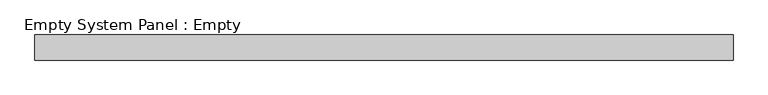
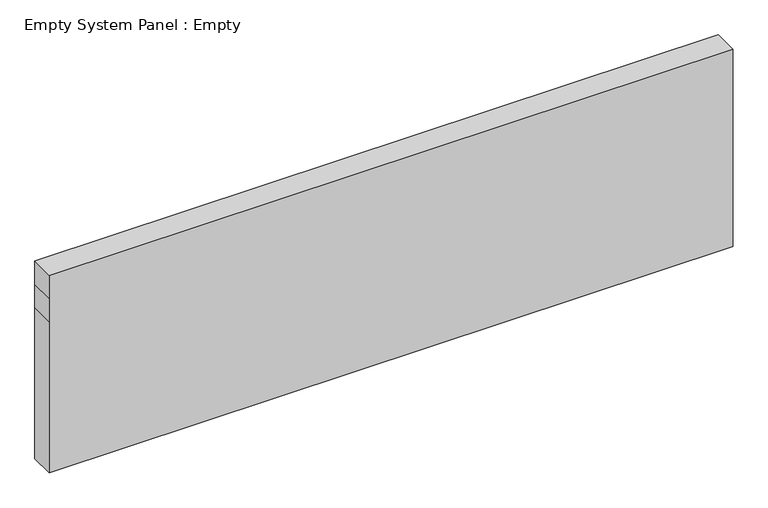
"""IFC4 building model written with IfcOpenShell, lengths in millimetres: plate geometry, Empty System Panel : Empty."""

from ifc_helpers import new_model, si_unit, frame, origin, place, context, project, spatial, polyline, outline, extrude, source, transform, mapped, element, save


def empty_system_panel_empty_c35a7bda(model_context):
    return source(origin(), model_context, "Body", "SweptSolid", [
        extrude(outline(polyline([(0.0, -1390.75), (0.0, 1390.75), (650.0, 1390.75), (750.0, 1390.75), (850.0, 1390.75), (850.0, -1390.75), (750.0, -1390.75), (650.0, -1390.75), (0.0, -1390.75)])), frame((0.0, -50.0, 0.0), z_axis=(0.0, 1.0, 0.0), x_axis=(0.0, 0.0, 1.0)), (0.0, 0.0, 1.0), 100.0),
    ])


if __name__ == "__main__":
    model = new_model("IFC4")
    model_context = context("Model", 3, world=origin())
    ifc_project = project(units=[si_unit("LENGTHUNIT", "METRE", prefix="MILLI")], contexts=[model_context])
    site = spatial("IfcSite", under=ifc_project)
    building = spatial("IfcBuilding", under=site)
    placement = place(None, origin())
    empty_system_panel_empty_shape = empty_system_panel_empty_c35a7bda(model_context)
    element("IfcPlate", 1, ObjectType="Empty System Panel : Empty", at=placement, inside=building, context=model_context, shape_type="MappedRepresentation", body=[
        mapped(empty_system_panel_empty_shape, transform((0.0, 0.0, 0.0), x_axis=(1.0, 0.0, 0.0), y_axis=(0.0, 1.0, 0.0), z_axis=(0.0, 0.0, 1.0))),
    ])
    save(model, "model.ifc")
